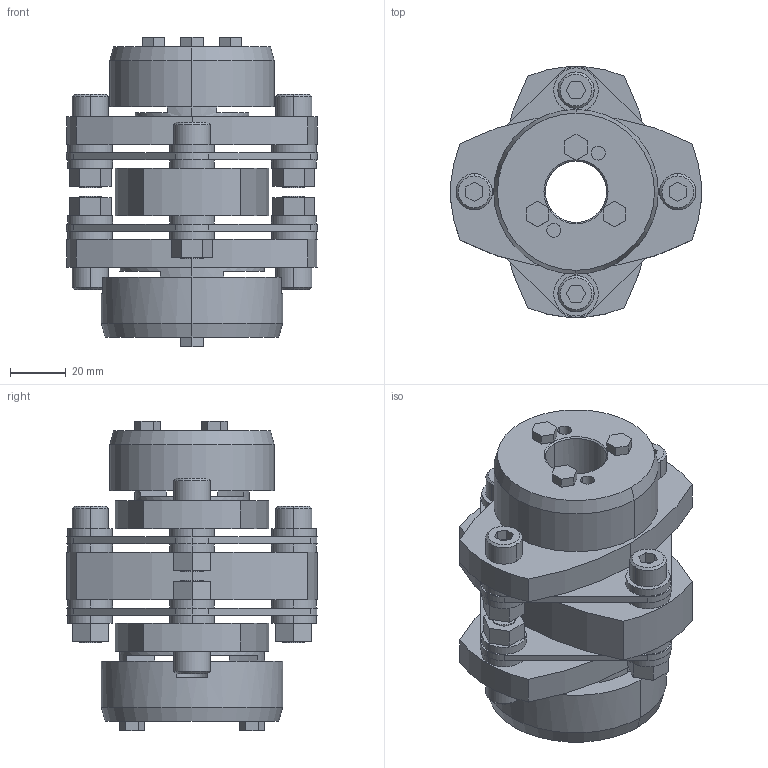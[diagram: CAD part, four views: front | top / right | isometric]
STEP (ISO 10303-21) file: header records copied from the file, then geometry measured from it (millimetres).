
FILE_DESCRIPTION((''),'2;1');
FILE_NAME('LCD-90T7-22×30.stp','2011-09-12T09:48:05',(''),(''),'AutoCAD STEP 2000i','AutoCAD 2000i',', , ');
FILE_SCHEMA(('CONFIG_CONTROL_DESIGN'));
Length unit declared in the file: millimetre
Products named in the file (7): LCD-90T7-19×30; 忣兜1; LC90T7-T030; LC90T7-T025; LC90T7-T019-1; LC90T7-T019; LCD90-ITA
Assembly tree (6 placements, depth 2):
  LCD-90T7-19×30
    忣兜1
    LC90T7-T030
    LC90T7-T025
    LC90T7-T019-1
    LC90T7-T019
    LCD90-ITA
Bounding box: 90 x 89.94 x 111 mm (x, y, z)
Volume: 275122.1 mm3; surface area: 74716.1 mm2
Topology: 1 solids, 1 shells, 320 faces, 786 edges, 514 vertices
Faces by surface type: plane 174, cylinder 122, cone 24
Entity records: 9715 total; most frequent: DIRECTION 1734, CARTESIAN_POINT 1627, ORIENTED_EDGE 1572, EDGE_CURVE 786, AXIS2_PLACEMENT_3D 621, VERTEX_POINT 514, VECTOR 492, LINE 492
